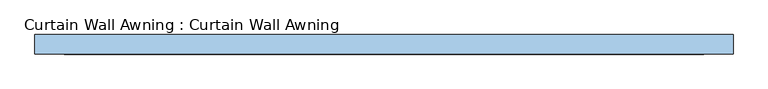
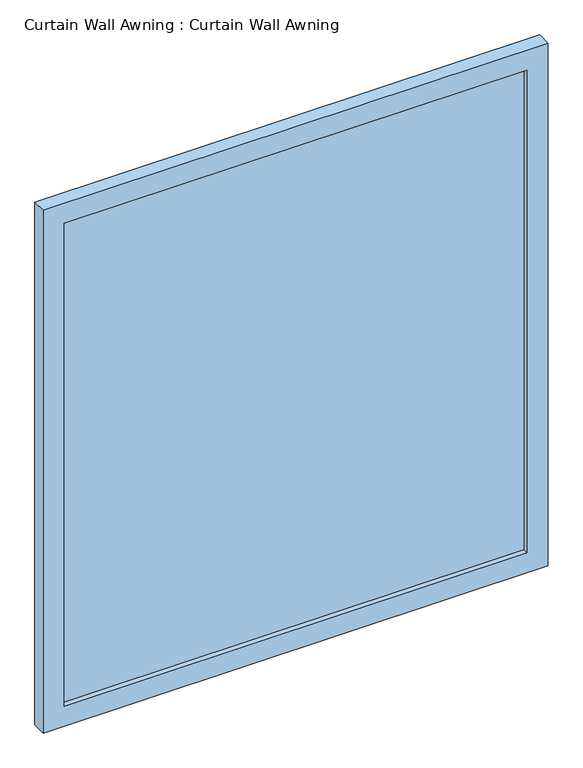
"""IFC4 building model written with IfcOpenShell, lengths in millimetres: window geometry, Curtain Wall Awning : Curtain Wall Awning."""

import ifcopenshell
import ifcopenshell.guid

model = None  # the IFC model being written
_history = None  # IfcOwnerHistory: only IFC2X3 demands one
_inside = {}  # id of a spatial element -> (the spatial element, [elements in it])
_under = {}  # id of a project, library or spatial element -> (it, [spatial elements below it])
_declared = {}  # id of a project -> (the project, [libraries it declares])
_typed = {}  # id of a type object -> (the type object, [elements of that type])
_made_of = {}  # id of a material, layer set ... -> (it, [elements and type objects made of it])


def new_model(schema):
    """Start an empty IFC model of exactly this schema.

    Asked for "IFC4X3", IfcOpenShell would pick the latest addendum, in which some entities
    have other attributes; the version numbers below select the first issue.
    IFC2X3 requires an IfcOwnerHistory on every rooted entity: one is made here for all.
    """
    global model, _history
    if schema == "IFC4X3":
        model = ifcopenshell.file(schema_version=(4, 3, 0, 0))
    else:
        model = ifcopenshell.file(schema=schema)
    _inside.clear()
    _under.clear()
    _declared.clear()
    _typed.clear()
    _made_of.clear()
    _history = None
    if model.schema == "IFC2X3":
        org = make("IfcOrganization", Name="unknown")
        user = make(
            "IfcPersonAndOrganization",
            ThePerson=make("IfcPerson", FamilyName="unknown"),
            TheOrganization=org,
        )
        app = make(
            "IfcApplication",
            ApplicationDeveloper=org,
            Version="unknown",
            ApplicationFullName="unknown",
            ApplicationIdentifier="unknown",
        )
        _history = make(
            "IfcOwnerHistory",
            OwningUser=user,
            OwningApplication=app,
            ChangeAction="ADDED",
            CreationDate=0,
        )
    return model


def make(cls, **values):
    """One entity of the class cls with the attributes given. An attribute that is None is left unset."""
    return model.create_entity(
        cls, **{name: value for name, value in values.items() if value is not None}
    )


def rooted(cls, **values):
    """An entity with a GlobalId (a new one), such as an element, a storey or a relation."""
    return make(cls, GlobalId=ifcopenshell.guid.new(), OwnerHistory=_history, **values)


def si_unit(unit_type, name, prefix=None):
    """IfcSIUnit, for example si_unit("LENGTHUNIT", "METRE", prefix="MILLI")."""
    return make("IfcSIUnit", UnitType=unit_type, Prefix=prefix, Name=name)


def assignment(units):
    """IfcUnitAssignment: the units of a project."""
    return None if units is None else make("IfcUnitAssignment", Units=units)


def point(xyz):
    """IfcCartesianPoint."""
    return None if xyz is None else make("IfcCartesianPoint", Coordinates=xyz)


def direction(xyz):
    """IfcDirection."""
    return None if xyz is None else make("IfcDirection", DirectionRatios=xyz)


def frame(location, z_axis=None, x_axis=None):
    """IfcAxis2Placement3D, a coordinate frame: its origin and axes. An axis left out is left unset."""
    return make(
        "IfcAxis2Placement3D",
        Location=point(location),
        Axis=direction(z_axis),
        RefDirection=direction(x_axis),
    )


def origin():
    """The frame at (0, 0, 0) with its axes left unset."""
    return frame((0.0, 0.0, 0.0))


def place(relative_to, where):
    """IfcLocalPlacement: puts the frame where relative to a parent placement (None: the world)."""
    return make(
        "IfcLocalPlacement", PlacementRelTo=relative_to, RelativePlacement=where
    )


def context(
    kind, dimensions, precision=None, world=None, true_north=None, identifier=None
):
    """IfcGeometricRepresentationContext, for example the 3D "Model" context."""
    return make(
        "IfcGeometricRepresentationContext",
        ContextIdentifier=identifier,
        ContextType=kind,
        CoordinateSpaceDimension=dimensions,
        Precision=precision,
        WorldCoordinateSystem=world,
        TrueNorth=true_north,
    )


def project(units=None, contexts=None):
    """IfcProject with its units and contexts."""
    return rooted(
        "IfcProject",
        Name="project",
        RepresentationContexts=contexts,
        UnitsInContext=assignment(units),
    )


def spatial(cls, under=None, at=None, **own):
    """A site, building, storey or space (cls), placed at a placement, below another one or the project."""
    s = rooted(cls, ObjectPlacement=at, **own)
    if under is not None:
        _under.setdefault(under.id(), (under, []))[1].append(s)
    return s


def polyline(points):
    """IfcPolyline through the points."""
    return make("IfcPolyline", Points=[point(p) for p in points])


def outline(outer, holes=None, kind="AREA"):
    """IfcArbitraryClosedProfileDef: a profile drawn as a closed curve; with holes, ...WithVoids."""
    if holes is None:
        return make("IfcArbitraryClosedProfileDef", ProfileType=kind, OuterCurve=outer)
    return make(
        "IfcArbitraryProfileDefWithVoids",
        ProfileType=kind,
        OuterCurve=outer,
        InnerCurves=holes,
    )


def extrude(swept, where, along, depth):
    """IfcExtrudedAreaSolid: the profile swept, set in the frame where, extruded along a direction by depth."""
    return make(
        "IfcExtrudedAreaSolid",
        SweptArea=swept,
        Position=where,
        ExtrudedDirection=direction(along),
        Depth=depth,
    )


def shape(context_of_items, identifier, shape_type, items):
    """IfcShapeRepresentation: the items that make up one representation, for example the "Body"."""
    return make(
        "IfcShapeRepresentation",
        ContextOfItems=context_of_items,
        RepresentationIdentifier=identifier,
        RepresentationType=shape_type,
        Items=items,
    )


def source(mapping_origin, context_of_items, identifier, shape_type, items):
    """IfcRepresentationMap: a shape defined once, which mapped items show again and again."""
    return make(
        "IfcRepresentationMap",
        MappingOrigin=mapping_origin,
        MappedRepresentation=shape(context_of_items, identifier, shape_type, items),
    )


def transform(
    local_origin,
    x_axis=None,
    y_axis=None,
    z_axis=None,
    scale=None,
    scale2=None,
    scale3=None,
    uniform=True,
):
    """IfcCartesianTransformationOperator3D, or its non-uniform kind. x_axis, y_axis, z_axis: its Axis1, 2, 3."""
    if uniform:
        return make(
            "IfcCartesianTransformationOperator3D",
            Axis1=direction(x_axis),
            Axis2=direction(y_axis),
            LocalOrigin=point(local_origin),
            Scale=scale,
            Axis3=direction(z_axis),
        )
    return make(
        "IfcCartesianTransformationOperator3DnonUniform",
        Axis1=direction(x_axis),
        Axis2=direction(y_axis),
        LocalOrigin=point(local_origin),
        Scale=scale,
        Axis3=direction(z_axis),
        Scale2=scale2,
        Scale3=scale3,
    )


def mapped(mapping_source, mapping_target):
    """IfcMappedItem: shows the shape of a source again, moved by a transform."""
    return make(
        "IfcMappedItem", MappingSource=mapping_source, MappingTarget=mapping_target
    )


def made_of(thing, what):
    """Note that an element or type object is made of a material, layer set ...; save() writes the relation."""
    if what is not None:
        _made_of.setdefault(what.id(), (what, []))[1].append(thing)
    return thing


def element(
    cls,
    number,
    at=None,
    inside=None,
    cuts=None,
    type_object=None,
    material=None,
    context=None,
    identifier="Body",
    shape_type=None,
    held_by="IfcProductDefinitionShape",
    body=None,
    shapes=None,
    **own,
):
    """One element of the class cls, such as IfcWall. Its Tag is "e" and its number.

    at: its placement. inside: the storey or other place that contains it. cuts: it is an
    opening in that element (IfcRelVoidsElement). A single representation is given by context,
    identifier, shape_type and body (its items); several are given by shapes. held_by: the class
    of the entity that holds the representations. save() writes the other relations.
    """
    e = rooted(cls, Tag="e%d" % number, ObjectPlacement=at, **own)
    if body is not None:
        shapes = [shape(context, identifier, shape_type, body)]
    if shapes is not None:
        e.Representation = make(held_by, Representations=shapes)
    if inside is not None:
        _inside.setdefault(inside.id(), (inside, []))[1].append(e)
    if cuts is not None:
        rooted(
            "IfcRelVoidsElement", RelatingBuildingElement=cuts, RelatedOpeningElement=e
        )
    if type_object is not None:
        _typed.setdefault(type_object.id(), (type_object, []))[1].append(e)
    return made_of(e, material)


def aggregate(whole, parts):
    """IfcRelAggregates: a whole, such as a stair, and the parts it consists of."""
    return rooted("IfcRelAggregates", RelatingObject=whole, RelatedObjects=parts)


def save(model, path):
    """Write the relations noted so far, then the file.

    IfcRelAggregates (storeys below a building ...), IfcRelContainedInSpatialStructure (elements
    in a storey), IfcRelDefinesByType, IfcRelAssociatesMaterial and IfcRelDeclares: one each for
    every whole, place, type object, material and project.
    """
    for whole, parts in _under.values():
        aggregate(whole, parts)
    for where, things in _inside.values():
        rooted(
            "IfcRelContainedInSpatialStructure",
            RelatedElements=things,
            RelatingStructure=where,
        )
    for kind, things in _typed.values():
        rooted("IfcRelDefinesByType", RelatedObjects=things, RelatingType=kind)
    for what, things in _made_of.values():
        rooted("IfcRelAssociatesMaterial", RelatedObjects=things, RelatingMaterial=what)
    for by, libraries in _declared.values():
        rooted("IfcRelDeclares", RelatingContext=by, RelatedDefinitions=libraries)
    model.write(path)


def curtain_wall_awning_curtain_wall_awning_eda2fbb8(model_context):
    return source(origin(), model_context, "Body", "SweptSolid", [
        extrude(outline(polyline([(833.8, 44.45), (-833.8, 44.45), (-833.8, 57.15), (833.8, 57.15), (833.8, 44.45)])), frame((0.0, 0.0, 76.2), z_axis=(0.0, 0.0, 1.0), x_axis=(1.0, 0.0, 0.0)), (0.0, 0.0, 1.0), 1837.6),
        extrude(outline(polyline([(1990.0, -910.0), (0.0, -910.0), (0.0, 910.0), (1990.0, 910.0), (1990.0, -910.0)]), holes=[polyline([(1913.8, -833.8), (1913.8, 833.8), (76.2, 833.8), (76.2, -833.8), (1913.8, -833.8)])]), frame((0.0, 25.4, 0.0), z_axis=(0.0, 1.0, 0.0), x_axis=(0.0, 0.0, 1.0)), (0.0, 0.0, 1.0), 50.8),
    ])


if __name__ == "__main__":
    model = new_model("IFC4")
    model_context = context("Model", 3, world=origin())
    ifc_project = project(units=[si_unit("LENGTHUNIT", "METRE", prefix="MILLI")], contexts=[model_context])
    site = spatial("IfcSite", under=ifc_project)
    building = spatial("IfcBuilding", under=site)
    placement = place(None, origin())
    curtain_wall_awning_curtain_wall_awning_shape = curtain_wall_awning_curtain_wall_awning_eda2fbb8(model_context)
    element("IfcWindow", 1, ObjectType="Curtain Wall Awning : Curtain Wall Awning", at=placement, inside=building, context=model_context, shape_type="MappedRepresentation", body=[
        mapped(curtain_wall_awning_curtain_wall_awning_shape, transform((0.0, 0.0, 0.0), x_axis=(1.0, 0.0, 0.0), y_axis=(0.0, 1.0, 0.0), z_axis=(0.0, 0.0, 1.0))),
    ])
    save(model, "model.ifc")
